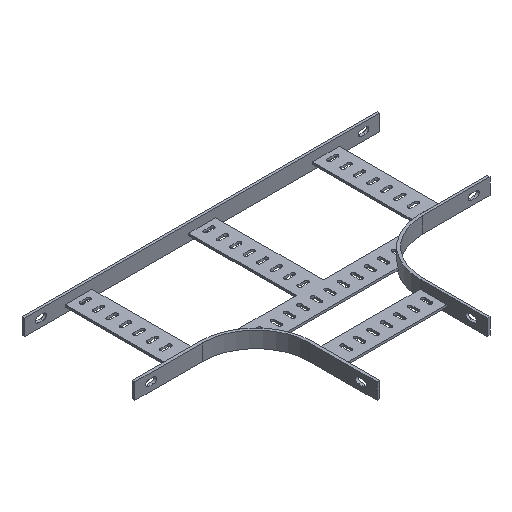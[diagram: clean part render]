
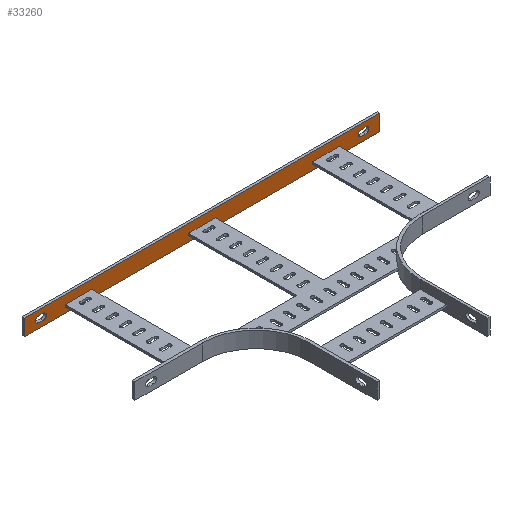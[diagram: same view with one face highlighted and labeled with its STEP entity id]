
A CAD part, isometric view. The second image highlights one B-rep face of the part: STEP entity #33260.
In plain terms, the highlighted planar face has unit normal (0, -1, 0).
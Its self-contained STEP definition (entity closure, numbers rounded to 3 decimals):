
#19340=CARTESIAN_POINT('',(-410.,305.,-14.));
#19350=VERTEX_POINT('',#19340);
#19430=CARTESIAN_POINT('',(-410.,305.,-10.));
#19440=VERTEX_POINT('',#19430);
#19470=CARTESIAN_POINT('',(-410.,305.,0.));
#19480=DIRECTION('',(0.,0.,1.));
#19490=VECTOR('',#19480,1.);
#19500=LINE('',#19470,#19490);
#19510=EDGE_CURVE('',#19350,#19440,#19500,.T.);
#19670=CARTESIAN_POINT('',(-460.,305.,-10.));
#19680=VERTEX_POINT('',#19670);
#19710=CARTESIAN_POINT('',(0.,305.,-10.));
#19720=DIRECTION('',(-1.,0.,0.));
#19730=VECTOR('',#19720,1.);
#19740=LINE('',#19710,#19730);
#19750=EDGE_CURVE('',#19440,#19680,#19740,.T.);
#22790=CARTESIAN_POINT('',(-460.,305.,-14.));
#22800=VERTEX_POINT('',#22790);
#22830=CARTESIAN_POINT('',(-460.,305.,0.));
#22840=DIRECTION('',(0.,0.,-1.));
#22850=VECTOR('',#22840,1.);
#22860=LINE('',#22830,#22850);
#22870=EDGE_CURVE('',#19680,#22800,#22860,.T.);
#23000=CARTESIAN_POINT('',(0.,305.,-14.));
#23010=DIRECTION('',(1.,0.,0.));
#23020=VECTOR('',#23010,1.);
#23030=LINE('',#23000,#23020);
#23040=EDGE_CURVE('',#22800,#19350,#23030,.T.);
#31410=CARTESIAN_POINT('',(-435.,305.,-30.));
#31420=DIRECTION('',(0.,1.,-0.));
#31430=DIRECTION('',(-1.,0.,0.));
#31440=AXIS2_PLACEMENT_3D('',#31410,#31420,#31430);
#31450=PLANE('',#31440);
#31460=CARTESIAN_POINT('',(90.5,305.,-15.));
#31470=DIRECTION('',(0.,-1.,0.));
#31480=DIRECTION('',(1.,0.,0.));
#31490=AXIS2_PLACEMENT_3D('',#31460,#31470,#31480);
#31500=CIRCLE('',#31490,5.5);
#31510=CARTESIAN_POINT('',(90.5,305.,-9.5));
#31520=VERTEX_POINT('',#31510);
#31530=CARTESIAN_POINT('',(90.5,305.,-20.5));
#31540=VERTEX_POINT('',#31530);
#31550=EDGE_CURVE('',#31520,#31540,#31500,.T.);
#31560=ORIENTED_EDGE('',*,*,#31550,.F.);
#31570=CARTESIAN_POINT('',(0.,305.,-20.5));
#31580=DIRECTION('',(-1.,0.,0.));
#31590=VECTOR('',#31580,1.);
#31600=LINE('',#31570,#31590);
#31610=CARTESIAN_POINT('',(99.5,305.,-20.5));
#31620=VERTEX_POINT('',#31610);
#31630=EDGE_CURVE('',#31620,#31540,#31600,.T.);
#31640=ORIENTED_EDGE('',*,*,#31630,.T.);
#31650=CARTESIAN_POINT('',(99.5,305.,-15.));
#31660=DIRECTION('',(0.,1.,0.));
#31670=DIRECTION('',(1.,0.,0.));
#31680=AXIS2_PLACEMENT_3D('',#31650,#31660,#31670);
#31690=CIRCLE('',#31680,5.5);
#31700=CARTESIAN_POINT('',(99.5,305.,-9.5));
#31710=VERTEX_POINT('',#31700);
#31720=EDGE_CURVE('',#31710,#31620,#31690,.T.);
#31730=ORIENTED_EDGE('',*,*,#31720,.T.);
#31740=CARTESIAN_POINT('',(0.,305.,-9.5));
#31750=DIRECTION('',(1.,0.,0.));
#31760=VECTOR('',#31750,1.);
#31770=LINE('',#31740,#31760);
#31780=EDGE_CURVE('',#31520,#31710,#31770,.T.);
#31790=ORIENTED_EDGE('',*,*,#31780,.T.);
#31800=EDGE_LOOP('',(#31790,#31730,#31640,#31560));
#31810=FACE_BOUND('',#31800,.T.);
#31820=CARTESIAN_POINT('',(-100.,305.,-9.5));
#31830=DIRECTION('',(1.,0.,0.));
#31840=VECTOR('',#31830,1.);
#31850=LINE('',#31820,#31840);
#31860=CARTESIAN_POINT('',(-509.5,305.,-9.5));
#31870=VERTEX_POINT('',#31860);
#31880=CARTESIAN_POINT('',(-500.5,305.,-9.5));
#31890=VERTEX_POINT('',#31880);
#31900=EDGE_CURVE('',#31870,#31890,#31850,.T.);
#31910=ORIENTED_EDGE('',*,*,#31900,.T.);
#31920=CARTESIAN_POINT('',(-509.5,305.,-15.));
#31930=DIRECTION('',(0.,1.,0.));
#31940=DIRECTION('',(-1.,0.,0.));
#31950=AXIS2_PLACEMENT_3D('',#31920,#31930,#31940);
#31960=CIRCLE('',#31950,5.5);
#31970=CARTESIAN_POINT('',(-509.5,305.,-20.5));
#31980=VERTEX_POINT('',#31970);
#31990=EDGE_CURVE('',#31980,#31870,#31960,.T.);
#32000=ORIENTED_EDGE('',*,*,#31990,.T.);
#32010=CARTESIAN_POINT('',(-100.,305.,-20.5));
#32020=DIRECTION('',(-1.,0.,0.));
#32030=VECTOR('',#32020,1.);
#32040=LINE('',#32010,#32030);
#32050=CARTESIAN_POINT('',(-500.5,305.,-20.5));
#32060=VERTEX_POINT('',#32050);
#32070=EDGE_CURVE('',#32060,#31980,#32040,.T.);
#32080=ORIENTED_EDGE('',*,*,#32070,.T.);
#32090=CARTESIAN_POINT('',(-500.5,305.,-15.));
#32100=DIRECTION('',(0.,-1.,0.));
#32110=DIRECTION('',(-1.,0.,0.));
#32120=AXIS2_PLACEMENT_3D('',#32090,#32100,#32110);
#32130=CIRCLE('',#32120,5.5);
#32140=EDGE_CURVE('',#32060,#31890,#32130,.T.);
#32150=ORIENTED_EDGE('',*,*,#32140,.F.);
#32160=EDGE_LOOP('',(#32150,#32080,#32000,#31910));
#32170=FACE_BOUND('',#32160,.T.);
#32180=CARTESIAN_POINT('',(-435.,305.,-30.));
#32190=DIRECTION('',(1.,0.,0.));
#32200=VECTOR('',#32190,1.);
#32210=LINE('',#32180,#32200);
#32220=CARTESIAN_POINT('',(-535.,305.,-30.));
#32230=VERTEX_POINT('',#32220);
#32240=CARTESIAN_POINT('',(125.,305.,-30.));
#32250=VERTEX_POINT('',#32240);
#32260=EDGE_CURVE('',#32230,#32250,#32210,.T.);
#32270=ORIENTED_EDGE('',*,*,#32260,.T.);
#32280=CARTESIAN_POINT('',(-535.,305.,-30.));
#32290=DIRECTION('',(0.,0.,1.));
#32300=VECTOR('',#32290,1.);
#32310=LINE('',#32280,#32300);
#32320=CARTESIAN_POINT('',(-535.,305.,0.));
#32330=VERTEX_POINT('',#32320);
#32340=EDGE_CURVE('',#32230,#32330,#32310,.T.);
#32350=ORIENTED_EDGE('',*,*,#32340,.F.);
#32360=CARTESIAN_POINT('',(-435.,305.,0.));
#32370=DIRECTION('',(1.,0.,0.));
#32380=VECTOR('',#32370,1.);
#32390=LINE('',#32360,#32380);
#32400=CARTESIAN_POINT('',(125.,305.,0.));
#32410=VERTEX_POINT('',#32400);
#32420=EDGE_CURVE('',#32330,#32410,#32390,.T.);
#32430=ORIENTED_EDGE('',*,*,#32420,.F.);
#32440=CARTESIAN_POINT('',(125.,305.,-30.));
#32450=DIRECTION('',(0.,0.,1.));
#32460=VECTOR('',#32450,1.);
#32470=LINE('',#32440,#32460);
#32480=EDGE_CURVE('',#32250,#32410,#32470,.T.);
#32490=ORIENTED_EDGE('',*,*,#32480,.T.);
#32500=EDGE_LOOP('',(#32490,#32430,#32350,#32270));
#32510=FACE_OUTER_BOUND('',#32500,.T.);
#32520=CARTESIAN_POINT('',(0.,305.,-14.));
#32530=DIRECTION('',(1.,0.,0.));
#32540=VECTOR('',#32530,1.);
#32550=LINE('',#32520,#32540);
#32560=CARTESIAN_POINT('',(0.,305.,-14.));
#32570=VERTEX_POINT('',#32560);
#32580=CARTESIAN_POINT('',(50.,305.,-14.));
#32590=VERTEX_POINT('',#32580);
#32600=EDGE_CURVE('',#32570,#32590,#32550,.T.);
#32610=ORIENTED_EDGE('',*,*,#32600,.F.);
#32620=CARTESIAN_POINT('',(50.,305.,0.));
#32630=DIRECTION('',(0.,0.,1.));
#32640=VECTOR('',#32630,1.);
#32650=LINE('',#32620,#32640);
#32660=CARTESIAN_POINT('',(50.,305.,-10.));
#32670=VERTEX_POINT('',#32660);
#32680=EDGE_CURVE('',#32590,#32670,#32650,.T.);
#32690=ORIENTED_EDGE('',*,*,#32680,.F.);
#32700=CARTESIAN_POINT('',(0.,305.,-10.));
#32710=DIRECTION('',(-1.,0.,0.));
#32720=VECTOR('',#32710,1.);
#32730=LINE('',#32700,#32720);
#32740=CARTESIAN_POINT('',(0.,305.,-10.));
#32750=VERTEX_POINT('',#32740);
#32760=EDGE_CURVE('',#32670,#32750,#32730,.T.);
#32770=ORIENTED_EDGE('',*,*,#32760,.F.);
#32780=CARTESIAN_POINT('',(0.,305.,0.));
#32790=DIRECTION('',(0.,0.,-1.));
#32800=VECTOR('',#32790,1.);
#32810=LINE('',#32780,#32800);
#32820=EDGE_CURVE('',#32750,#32570,#32810,.T.);
#32830=ORIENTED_EDGE('',*,*,#32820,.F.);
#32840=EDGE_LOOP('',(#32830,#32770,#32690,#32610));
#32850=FACE_BOUND('',#32840,.T.);
#32860=ORIENTED_EDGE('',*,*,#23040,.F.);
#32870=ORIENTED_EDGE('',*,*,#19510,.F.);
#32880=ORIENTED_EDGE('',*,*,#19750,.F.);
#32890=ORIENTED_EDGE('',*,*,#22870,.F.);
#32900=EDGE_LOOP('',(#32890,#32880,#32870,#32860));
#32910=FACE_BOUND('',#32900,.T.);
#32920=CARTESIAN_POINT('',(-230.,305.,0.));
#32930=DIRECTION('',(0.,0.,-1.));
#32940=VECTOR('',#32930,1.);
#32950=LINE('',#32920,#32940);
#32960=CARTESIAN_POINT('',(-230.,305.,-10.));
#32970=VERTEX_POINT('',#32960);
#32980=CARTESIAN_POINT('',(-230.,305.,-14.));
#32990=VERTEX_POINT('',#32980);
#33000=EDGE_CURVE('',#32970,#32990,#32950,.T.);
#33010=ORIENTED_EDGE('',*,*,#33000,.F.);
#33020=CARTESIAN_POINT('',(0.,305.,-14.));
#33030=DIRECTION('',(1.,0.,0.));
#33040=VECTOR('',#33030,1.);
#33050=LINE('',#33020,#33040);
#33060=CARTESIAN_POINT('',(-180.,305.,-14.));
#33070=VERTEX_POINT('',#33060);
#33080=EDGE_CURVE('',#32990,#33070,#33050,.T.);
#33090=ORIENTED_EDGE('',*,*,#33080,.F.);
#33100=CARTESIAN_POINT('',(-180.,305.,0.));
#33110=DIRECTION('',(0.,0.,1.));
#33120=VECTOR('',#33110,1.);
#33130=LINE('',#33100,#33120);
#33140=CARTESIAN_POINT('',(-180.,305.,-10.));
#33150=VERTEX_POINT('',#33140);
#33160=EDGE_CURVE('',#33070,#33150,#33130,.T.);
#33170=ORIENTED_EDGE('',*,*,#33160,.F.);
#33180=CARTESIAN_POINT('',(0.,305.,-10.));
#33190=DIRECTION('',(-1.,0.,0.));
#33200=VECTOR('',#33190,1.);
#33210=LINE('',#33180,#33200);
#33220=EDGE_CURVE('',#33150,#32970,#33210,.T.);
#33230=ORIENTED_EDGE('',*,*,#33220,.F.);
#33240=EDGE_LOOP('',(#33230,#33170,#33090,#33010));
#33250=FACE_BOUND('',#33240,.T.);
#33260=ADVANCED_FACE('',(#31810,#32170,#32510,#32850,#32910,#33250),
#31450,.F.);
